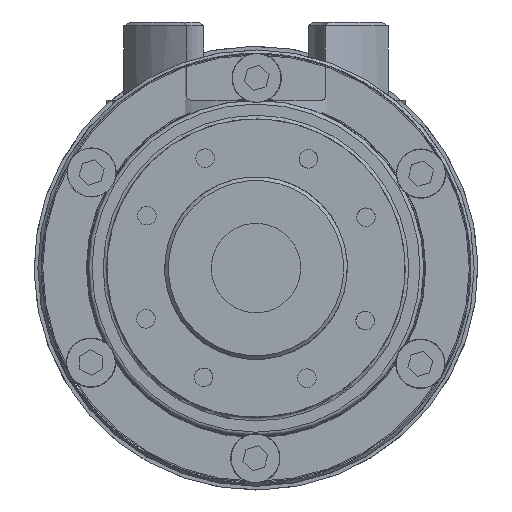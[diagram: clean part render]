
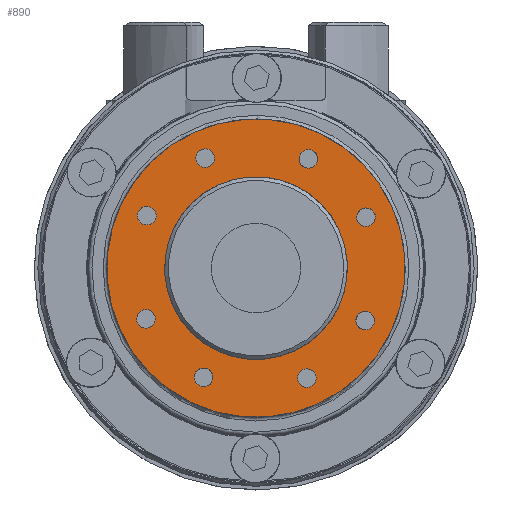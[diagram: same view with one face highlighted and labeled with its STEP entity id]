
A CAD part, left-side view. The second image highlights one B-rep face of the part: STEP entity #890.
In plain terms, the highlighted planar face has unit normal (-1, 0, 0) as drawn and (0, -1, 0) by its records, which use the part's own axes.
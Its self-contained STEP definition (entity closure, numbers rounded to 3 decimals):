
#890 = ADVANCED_FACE( '', ( #1939, #1940, #1941, #1942, #1943, #1944, #1945, #1946, #1947, #1948 ), #1949, .F. );
#1939 = FACE_OUTER_BOUND( '', #3023, .T. );
#1940 = FACE_BOUND( '', #3024, .T. );
#1941 = FACE_BOUND( '', #3025, .T. );
#1942 = FACE_BOUND( '', #3026, .T. );
#1943 = FACE_BOUND( '', #3027, .T. );
#1944 = FACE_BOUND( '', #3028, .T. );
#1945 = FACE_BOUND( '', #3029, .T. );
#1946 = FACE_BOUND( '', #3030, .T. );
#1947 = FACE_BOUND( '', #3031, .T. );
#1948 = FACE_BOUND( '', #3032, .T. );
#1949 = PLANE( '', #3033 );
#3023 = EDGE_LOOP( '', ( #5637 ) );
#3024 = EDGE_LOOP( '', ( #5638 ) );
#3025 = EDGE_LOOP( '', ( #5639 ) );
#3026 = EDGE_LOOP( '', ( #5640 ) );
#3027 = EDGE_LOOP( '', ( #5641 ) );
#3028 = EDGE_LOOP( '', ( #5642 ) );
#3029 = EDGE_LOOP( '', ( #5643 ) );
#3030 = EDGE_LOOP( '', ( #5644 ) );
#3031 = EDGE_LOOP( '', ( #5645 ) );
#3032 = EDGE_LOOP( '', ( #5646 ) );
#3033 = AXIS2_PLACEMENT_3D( '', #5647, #5648, #5649 );
#5637 = ORIENTED_EDGE( '', *, *, #6530, .T. );
#5638 = ORIENTED_EDGE( '', *, *, #6541, .F. );
#5639 = ORIENTED_EDGE( '', *, *, #6542, .F. );
#5640 = ORIENTED_EDGE( '', *, *, #6543, .F. );
#5641 = ORIENTED_EDGE( '', *, *, #6544, .F. );
#5642 = ORIENTED_EDGE( '', *, *, #6545, .F. );
#5643 = ORIENTED_EDGE( '', *, *, #6546, .F. );
#5644 = ORIENTED_EDGE( '', *, *, #6531, .F. );
#5645 = ORIENTED_EDGE( '', *, *, #6547, .F. );
#5646 = ORIENTED_EDGE( '', *, *, #6548, .F. );
#5647 = CARTESIAN_POINT( '', ( 0., 0., 40. ) );
#5648 = DIRECTION( '', ( 0., 1., 0. ) );
#5649 = DIRECTION( '', ( 1., 0., 0. ) );
#6530 = EDGE_CURVE( '', #7774, #7774, #7775, .T. );
#6531 = EDGE_CURVE( '', #7776, #7776, #7777, .T. );
#6541 = EDGE_CURVE( '', #7796, #7796, #7797, .T. );
#6542 = EDGE_CURVE( '', #7798, #7798, #7799, .T. );
#6543 = EDGE_CURVE( '', #7800, #7800, #7801, .T. );
#6544 = EDGE_CURVE( '', #7802, #7802, #7803, .T. );
#6545 = EDGE_CURVE( '', #7804, #7804, #7805, .T. );
#6546 = EDGE_CURVE( '', #7806, #7806, #7807, .T. );
#6547 = EDGE_CURVE( '', #7808, #7808, #7809, .T. );
#6548 = EDGE_CURVE( '', #7810, #7810, #7811, .T. );
#7774 = VERTEX_POINT( '', #9944 );
#7775 = CIRCLE( '', #9945, 40. );
#7776 = VERTEX_POINT( '', #9946 );
#7777 = CIRCLE( '', #9947, 2.5 );
#7796 = VERTEX_POINT( '', #9966 );
#7797 = CIRCLE( '', #9967, 2.5 );
#7798 = VERTEX_POINT( '', #9968 );
#7799 = CIRCLE( '', #9969, 2.5 );
#7800 = VERTEX_POINT( '', #9970 );
#7801 = CIRCLE( '', #9971, 2.5 );
#7802 = VERTEX_POINT( '', #9972 );
#7803 = CIRCLE( '', #9973, 2.5 );
#7804 = VERTEX_POINT( '', #9974 );
#7805 = CIRCLE( '', #9975, 2.5 );
#7806 = VERTEX_POINT( '', #9976 );
#7807 = CIRCLE( '', #9977, 2.5 );
#7808 = VERTEX_POINT( '', #9978 );
#7809 = CIRCLE( '', #9979, 2.5 );
#7810 = VERTEX_POINT( '', #9980 );
#7811 = CIRCLE( '', #9981, 24.5 );
#9944 = CARTESIAN_POINT( '', ( 0., 0., -40. ) );
#9945 = AXIS2_PLACEMENT_3D( '', #11550, #11551, #11552 );
#9946 = CARTESIAN_POINT( '', ( 23.202, 0., 25.054 ) );
#9947 = AXIS2_PLACEMENT_3D( '', #11553, #11554, #11555 );
#9966 = CARTESIAN_POINT( '', ( -25.054, 0., 23.202 ) );
#9967 = AXIS2_PLACEMENT_3D( '', #11583, #11584, #11585 );
#9968 = CARTESIAN_POINT( '', ( -32.5, 0., 2.5 ) );
#9969 = AXIS2_PLACEMENT_3D( '', #11586, #11587, #11588 );
#9970 = CARTESIAN_POINT( '', ( -23.202, 0., -25.054 ) );
#9971 = AXIS2_PLACEMENT_3D( '', #11589, #11590, #11591 );
#9972 = CARTESIAN_POINT( '', ( -2.5, 0., -32.5 ) );
#9973 = AXIS2_PLACEMENT_3D( '', #11592, #11593, #11594 );
#9974 = CARTESIAN_POINT( '', ( 25.054, 0., -23.202 ) );
#9975 = AXIS2_PLACEMENT_3D( '', #11595, #11596, #11597 );
#9976 = CARTESIAN_POINT( '', ( 32.5, 0., -2.5 ) );
#9977 = AXIS2_PLACEMENT_3D( '', #11598, #11599, #11600 );
#9978 = CARTESIAN_POINT( '', ( 2.5, 0., 32.5 ) );
#9979 = AXIS2_PLACEMENT_3D( '', #11601, #11602, #11603 );
#9980 = CARTESIAN_POINT( '', ( 0., 0., -24.5 ) );
#9981 = AXIS2_PLACEMENT_3D( '', #11604, #11605, #11606 );
#11550 = CARTESIAN_POINT( '', ( 0., 0., 0. ) );
#11551 = DIRECTION( '', ( 0., -1., 0. ) );
#11552 = DIRECTION( '', ( 0., 0., -1. ) );
#11553 = CARTESIAN_POINT( '', ( 20.702, 0., 25.054 ) );
#11554 = DIRECTION( '', ( 0., -1., 0. ) );
#11555 = DIRECTION( '', ( 1., 0., 0. ) );
#11583 = CARTESIAN_POINT( '', ( -25.054, 0., 20.702 ) );
#11584 = DIRECTION( '', ( 0., -1., 0. ) );
#11585 = DIRECTION( '', ( 0., 0., 1. ) );
#11586 = CARTESIAN_POINT( '', ( -32.5, 0., 0. ) );
#11587 = DIRECTION( '', ( 0., -1., 0. ) );
#11588 = DIRECTION( '', ( 0., 0., 1. ) );
#11589 = CARTESIAN_POINT( '', ( -20.702, 0., -25.054 ) );
#11590 = DIRECTION( '', ( 0., -1., 0. ) );
#11591 = DIRECTION( '', ( -1., 0., 0. ) );
#11592 = CARTESIAN_POINT( '', ( 0., 0., -32.5 ) );
#11593 = DIRECTION( '', ( 0., -1., 0. ) );
#11594 = DIRECTION( '', ( -1., 0., 0. ) );
#11595 = CARTESIAN_POINT( '', ( 25.054, 0., -20.702 ) );
#11596 = DIRECTION( '', ( 0., -1., 0. ) );
#11597 = DIRECTION( '', ( 0., 0., -1. ) );
#11598 = CARTESIAN_POINT( '', ( 32.5, 0., 0. ) );
#11599 = DIRECTION( '', ( 0., -1., 0. ) );
#11600 = DIRECTION( '', ( 0., 0., -1. ) );
#11601 = CARTESIAN_POINT( '', ( 0., 0., 32.5 ) );
#11602 = DIRECTION( '', ( 0., -1., 0. ) );
#11603 = DIRECTION( '', ( 1., 0., 0. ) );
#11604 = CARTESIAN_POINT( '', ( 0., 0., 0. ) );
#11605 = DIRECTION( '', ( 0., -1., 0. ) );
#11606 = DIRECTION( '', ( 0., 0., -1. ) );
